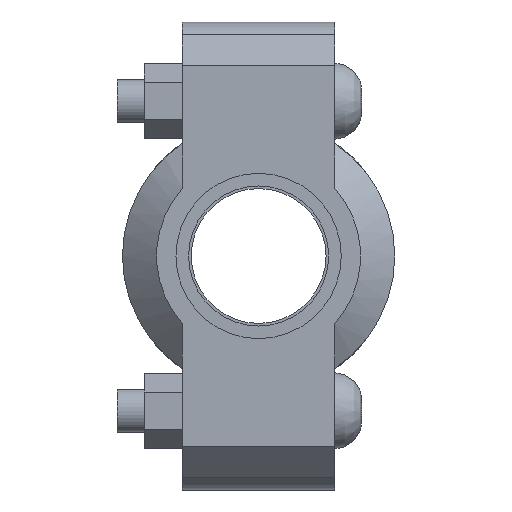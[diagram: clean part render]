
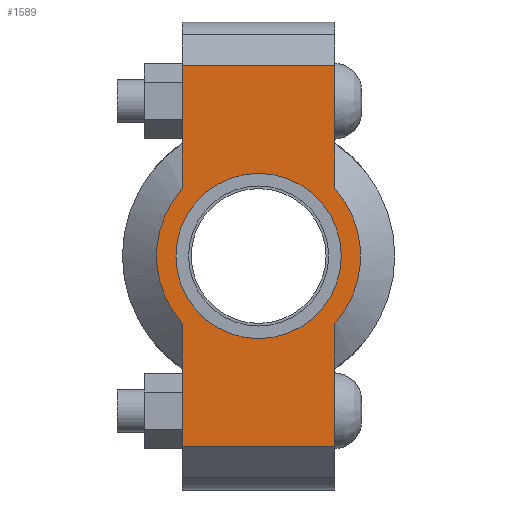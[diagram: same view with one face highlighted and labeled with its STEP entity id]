
A CAD part, left-side view. The second image highlights one B-rep face of the part: STEP entity #1589.
In plain terms, the highlighted planar face has unit normal (-1, 0, 0) as drawn and (0, 0, 1) by its records, which use the part's own axes.
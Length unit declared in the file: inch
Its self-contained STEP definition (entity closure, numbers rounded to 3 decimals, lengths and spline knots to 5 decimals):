
#144=LINE('',#2747,#241);
#159=LINE('',#2806,#256);
#167=LINE('',#2836,#264);
#169=LINE('',#2839,#266);
#170=LINE('',#2844,#267);
#171=LINE('',#2845,#268);
#241=VECTOR('',#2239,0.3937);
#256=VECTOR('',#2274,0.3937);
#264=VECTOR('',#2294,0.3937);
#266=VECTOR('',#2298,0.3937);
#267=VECTOR('',#2303,0.3937);
#268=VECTOR('',#2304,0.3937);
#332=FACE_BOUND('',#509,.T.);
#400=FACE_OUTER_BOUND('',#508,.T.);
#508=EDGE_LOOP('',(#1290,#1291,#1292,#1293,#1294,#1295,#1296,#1297));
#509=EDGE_LOOP('',(#1298));
#591=CIRCLE('',#1817,0.95);
#615=CIRCLE('',#1869,1.172);
#616=CIRCLE('',#1870,1.172);
#687=VERTEX_POINT('',#2573);
#728=VERTEX_POINT('',#2744);
#729=VERTEX_POINT('',#2746);
#750=VERTEX_POINT('',#2801);
#751=VERTEX_POINT('',#2805);
#760=VERTEX_POINT('',#2831);
#761=VERTEX_POINT('',#2835);
#762=VERTEX_POINT('',#2841);
#763=VERTEX_POINT('',#2843);
#851=EDGE_CURVE('',#687,#687,#591,.T.);
#908=EDGE_CURVE('',#729,#728,#144,.T.);
#933=EDGE_CURVE('',#751,#750,#159,.T.);
#946=EDGE_CURVE('',#761,#760,#167,.T.);
#948=EDGE_CURVE('',#761,#728,#169,.T.);
#949=EDGE_CURVE('',#760,#762,#615,.T.);
#950=EDGE_CURVE('',#762,#763,#170,.T.);
#951=EDGE_CURVE('',#751,#763,#171,.T.);
#952=EDGE_CURVE('',#750,#729,#616,.T.);
#1290=ORIENTED_EDGE('',*,*,#948,.F.);
#1291=ORIENTED_EDGE('',*,*,#946,.T.);
#1292=ORIENTED_EDGE('',*,*,#949,.T.);
#1293=ORIENTED_EDGE('',*,*,#950,.T.);
#1294=ORIENTED_EDGE('',*,*,#951,.F.);
#1295=ORIENTED_EDGE('',*,*,#933,.T.);
#1296=ORIENTED_EDGE('',*,*,#952,.T.);
#1297=ORIENTED_EDGE('',*,*,#908,.T.);
#1298=ORIENTED_EDGE('',*,*,#851,.T.);
#1429=PLANE('',#1868);
#1589=ADVANCED_FACE('',(#400,#332),#1429,.T.);
#1817=AXIS2_PLACEMENT_3D('',#2575,#2129,#2130);
#1868=AXIS2_PLACEMENT_3D('',#2840,#2299,#2300);
#1869=AXIS2_PLACEMENT_3D('',#2842,#2301,#2302);
#1870=AXIS2_PLACEMENT_3D('',#2846,#2305,#2306);
#2129=DIRECTION('center_axis',(0.,0.,-1.));
#2130=DIRECTION('ref_axis',(-1.,0.,0.));
#2239=DIRECTION('',(-1.,0.,0.));
#2274=DIRECTION('',(-1.,0.,0.));
#2294=DIRECTION('',(1.,0.,0.));
#2298=DIRECTION('',(0.,1.,0.));
#2299=DIRECTION('center_axis',(0.,0.,1.));
#2300=DIRECTION('ref_axis',(1.,0.,0.));
#2301=DIRECTION('center_axis',(0.,0.,1.));
#2302=DIRECTION('ref_axis',(-1.,0.,0.));
#2303=DIRECTION('',(1.,0.,0.));
#2304=DIRECTION('',(0.,-1.,0.));
#2305=DIRECTION('center_axis',(0.,0.,1.));
#2306=DIRECTION('ref_axis',(-1.,0.,0.));
#2573=CARTESIAN_POINT('',(0.95,0.,0.94));
#2575=CARTESIAN_POINT('Origin',(0.,0.,0.94));
#2744=CARTESIAN_POINT('',(-2.19,0.875,0.94));
#2746=CARTESIAN_POINT('',(-0.77972,0.875,0.94));
#2747=CARTESIAN_POINT('',(2.69,0.875,0.94));
#2801=CARTESIAN_POINT('',(0.77972,0.875,0.94));
#2805=CARTESIAN_POINT('',(2.19,0.875,0.94));
#2806=CARTESIAN_POINT('',(2.69,0.875,0.94));
#2831=CARTESIAN_POINT('',(-0.77972,-0.875,0.94));
#2835=CARTESIAN_POINT('',(-2.19,-0.875,0.94));
#2836=CARTESIAN_POINT('',(-2.69,-0.875,0.94));
#2839=CARTESIAN_POINT('',(-2.19,0.4375,0.94));
#2840=CARTESIAN_POINT('Origin',(0.,0.,0.94));
#2841=CARTESIAN_POINT('',(0.77972,-0.875,0.94));
#2842=CARTESIAN_POINT('Origin',(0.,0.,0.94));
#2843=CARTESIAN_POINT('',(2.19,-0.875,0.94));
#2844=CARTESIAN_POINT('',(-2.69,-0.875,0.94));
#2845=CARTESIAN_POINT('',(2.19,-0.4375,0.94));
#2846=CARTESIAN_POINT('Origin',(0.,0.,0.94));
